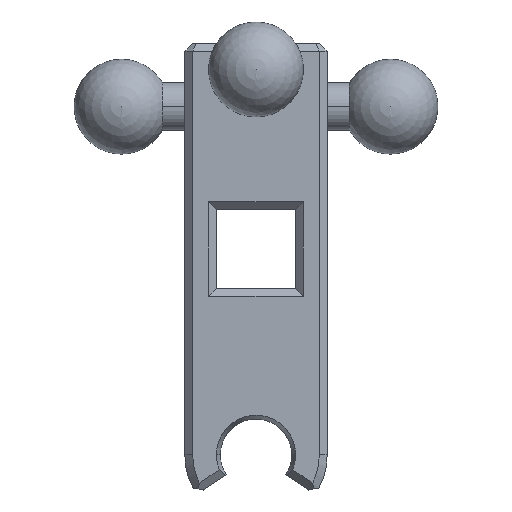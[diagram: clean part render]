
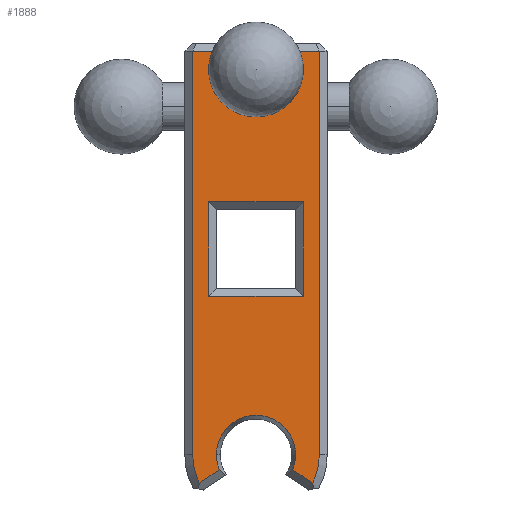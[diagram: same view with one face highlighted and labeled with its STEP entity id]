
A CAD part, top view. The second image highlights one B-rep face of the part: STEP entity #1888.
In plain terms, the highlighted planar face has unit normal (0, 0, 1).
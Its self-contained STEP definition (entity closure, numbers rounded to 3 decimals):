
#4 = CARTESIAN_POINT ( 'NONE',  ( -3.578, -14.789, 2.5 ) ) ;
#10 = CARTESIAN_POINT ( 'NONE',  ( 0., -13., 2.5 ) ) ;
#40 = ORIENTED_EDGE ( 'NONE', *, *, #556, .T. ) ;
#59 = VECTOR ( 'NONE', #1641, 1000. ) ;
#71 = DIRECTION ( 'NONE',  ( 0., 1., 0. ) ) ;
#79 = ORIENTED_EDGE ( 'NONE', *, *, #1422, .T. ) ;
#88 = CIRCLE ( 'NONE', #121, 2.5 ) ;
#93 = PLANE ( 'NONE',  #614 ) ;
#101 = FACE_BOUND ( 'NONE', #1044, .T. ) ;
#105 = ORIENTED_EDGE ( 'NONE', *, *, #1613, .T. ) ;
#108 = VERTEX_POINT ( 'NONE', #1368 ) ;
#121 = AXIS2_PLACEMENT_3D ( 'NONE', #1838, #1194, #1677 ) ;
#127 = CIRCLE ( 'NONE', #1110, 4. ) ;
#135 = VERTEX_POINT ( 'NONE', #1249 ) ;
#210 = CARTESIAN_POINT ( 'NONE',  ( 3., 3., 2.5 ) ) ;
#213 = EDGE_CURVE ( 'NONE', #729, #889, #2160, .T. ) ;
#227 = ORIENTED_EDGE ( 'NONE', *, *, #398, .T. ) ;
#244 = ORIENTED_EDGE ( 'NONE', *, *, #828, .T. ) ;
#249 = CARTESIAN_POINT ( 'NONE',  ( 0., -13., 2.5 ) ) ;
#258 = DIRECTION ( 'NONE',  ( 0.831, 0.556, 0. ) ) ;
#264 = DIRECTION ( 'NONE',  ( 0., 0., 1. ) ) ;
#266 = VECTOR ( 'NONE', #71, 1000. ) ;
#273 = CARTESIAN_POINT ( 'NONE',  ( 0., 11.34, 2.5 ) ) ;
#292 = DIRECTION ( 'NONE',  ( 1., 0., 0. ) ) ;
#334 = VERTEX_POINT ( 'NONE', #1987 ) ;
#340 = AXIS2_PLACEMENT_3D ( 'NONE', #1789, #612, #1413 ) ;
#358 = CARTESIAN_POINT ( 'NONE',  ( 3., 13., 2.5 ) ) ;
#385 = LINE ( 'NONE', #1205, #726 ) ;
#396 = ORIENTED_EDGE ( 'NONE', *, *, #601, .T. ) ;
#398 = EDGE_CURVE ( 'NONE', #334, #646, #385, .T. ) ;
#470 = VERTEX_POINT ( 'NONE', #1646 ) ;
#476 = VERTEX_POINT ( 'NONE', #2153 ) ;
#531 = VERTEX_POINT ( 'NONE', #2034 ) ;
#543 = EDGE_CURVE ( 'NONE', #135, #531, #88, .T. ) ;
#544 = LINE ( 'NONE', #2043, #692 ) ;
#556 = EDGE_CURVE ( 'NONE', #1497, #108, #1506, .T. ) ;
#601 = EDGE_CURVE ( 'NONE', #470, #1741, #1563, .T. ) ;
#612 = DIRECTION ( 'NONE',  ( 0., 0., 1. ) ) ;
#614 = AXIS2_PLACEMENT_3D ( 'NONE', #1432, #1959, #926 ) ;
#626 = CARTESIAN_POINT ( 'NONE',  ( -3., 3., 2.5 ) ) ;
#632 = CARTESIAN_POINT ( 'NONE',  ( -3., 13., 2.5 ) ) ;
#646 = VERTEX_POINT ( 'NONE', #1794 ) ;
#655 = CIRCLE ( 'NONE', #695, 2.5 ) ;
#658 = VERTEX_POINT ( 'NONE', #1621 ) ;
#660 = LINE ( 'NONE', #1171, #688 ) ;
#668 = ORIENTED_EDGE ( 'NONE', *, *, #721, .T. ) ;
#688 = VECTOR ( 'NONE', #707, 1000. ) ;
#692 = VECTOR ( 'NONE', #1712, 1000. ) ;
#695 = AXIS2_PLACEMENT_3D ( 'NONE', #10, #983, #1176 ) ;
#707 = DIRECTION ( 'NONE',  ( 0.831, -0.556, 0. ) ) ;
#721 = EDGE_CURVE ( 'NONE', #108, #1526, #1647, .T. ) ;
#726 = VECTOR ( 'NONE', #1056, 1000. ) ;
#729 = VERTEX_POINT ( 'NONE', #748 ) ;
#733 = VECTOR ( 'NONE', #258, 1000. ) ;
#747 = EDGE_LOOP ( 'NONE', ( #1123, #2001, #396, #244, #2036, #1148, #780, #810, #1821, #2181, #227, #1081, #79 ) ) ;
#748 = CARTESIAN_POINT ( 'NONE',  ( -1.187, 12.5, 2.5 ) ) ;
#758 = CARTESIAN_POINT ( 'NONE',  ( -2.356, -13.973, 2.5 ) ) ;
#780 = ORIENTED_EDGE ( 'NONE', *, *, #1284, .T. ) ;
#789 = LINE ( 'NONE', #758, #733 ) ;
#810 = ORIENTED_EDGE ( 'NONE', *, *, #1816, .F. ) ;
#828 = EDGE_CURVE ( 'NONE', #1741, #658, #660, .T. ) ;
#845 = CARTESIAN_POINT ( 'NONE',  ( 1.187, 12.5, 2.5 ) ) ;
#870 = LINE ( 'NONE', #358, #1742 ) ;
#871 = VECTOR ( 'NONE', #1553, 1000. ) ;
#889 = VERTEX_POINT ( 'NONE', #1400 ) ;
#926 = DIRECTION ( 'NONE',  ( -1., 0., 0. ) ) ;
#940 = AXIS2_PLACEMENT_3D ( 'NONE', #2054, #1919, #1906 ) ;
#983 = DIRECTION ( 'NONE',  ( 0., 0., -1. ) ) ;
#1001 = AXIS2_PLACEMENT_3D ( 'NONE', #249, #1786, #292 ) ;
#1006 = LINE ( 'NONE', #1469, #59 ) ;
#1019 = CARTESIAN_POINT ( 'NONE',  ( 0., -13., 2.5 ) ) ;
#1044 = EDGE_LOOP ( 'NONE', ( #2025, #40, #668, #105 ) ) ;
#1056 = DIRECTION ( 'NONE',  ( 0., -1., 0. ) ) ;
#1081 = ORIENTED_EDGE ( 'NONE', *, *, #1667, .F. ) ;
#1110 = AXIS2_PLACEMENT_3D ( 'NONE', #1019, #2175, #1327 ) ;
#1123 = ORIENTED_EDGE ( 'NONE', *, *, #543, .T. ) ;
#1148 = ORIENTED_EDGE ( 'NONE', *, *, #1298, .T. ) ;
#1156 = DIRECTION ( 'NONE',  ( 0., -1., 0. ) ) ;
#1170 = CARTESIAN_POINT ( 'NONE',  ( 4.5, -3., 2.5 ) ) ;
#1171 = CARTESIAN_POINT ( 'NONE',  ( -0.995, -11.734, 2.5 ) ) ;
#1172 = EDGE_CURVE ( 'NONE', #1691, #1497, #870, .T. ) ;
#1176 = DIRECTION ( 'NONE',  ( 1., 0., 0. ) ) ;
#1183 = VERTEX_POINT ( 'NONE', #4 ) ;
#1194 = DIRECTION ( 'NONE',  ( 0., 0., -1. ) ) ;
#1203 = CARTESIAN_POINT ( 'NONE',  ( 4., 13., 2.5 ) ) ;
#1205 = CARTESIAN_POINT ( 'NONE',  ( -4., 13., 2.5 ) ) ;
#1217 = LINE ( 'NONE', #1203, #871 ) ;
#1227 = CARTESIAN_POINT ( 'NONE',  ( 2.314, -13.945, 2.5 ) ) ;
#1239 = EDGE_CURVE ( 'NONE', #1358, #658, #1880, .T. ) ;
#1249 = CARTESIAN_POINT ( 'NONE',  ( -2.314, -13.945, 2.5 ) ) ;
#1282 = CARTESIAN_POINT ( 'NONE',  ( 3., -3., 2.5 ) ) ;
#1284 = EDGE_CURVE ( 'NONE', #476, #1644, #544, .T. ) ;
#1298 = EDGE_CURVE ( 'NONE', #1358, #476, #1217, .T. ) ;
#1327 = DIRECTION ( 'NONE',  ( 1., 0., 0. ) ) ;
#1358 = VERTEX_POINT ( 'NONE', #1580 ) ;
#1365 = DIRECTION ( 'NONE',  ( -1., 0., 0. ) ) ;
#1368 = CARTESIAN_POINT ( 'NONE',  ( -3., -3., 2.5 ) ) ;
#1393 = DIRECTION ( 'NONE',  ( 0., 1., 0. ) ) ;
#1400 = CARTESIAN_POINT ( 'NONE',  ( 0., 9.68, 2.5 ) ) ;
#1413 = DIRECTION ( 'NONE',  ( 0., 1., 0. ) ) ;
#1422 = EDGE_CURVE ( 'NONE', #1183, #135, #789, .T. ) ;
#1432 = CARTESIAN_POINT ( 'NONE',  ( -3.326, -15.222, 2.5 ) ) ;
#1469 = CARTESIAN_POINT ( 'NONE',  ( 4.5, 3., 2.5 ) ) ;
#1497 = VERTEX_POINT ( 'NONE', #1282 ) ;
#1506 = LINE ( 'NONE', #1170, #1627 ) ;
#1526 = VERTEX_POINT ( 'NONE', #626 ) ;
#1549 = DIRECTION ( 'NONE',  ( -1., 0., 0. ) ) ;
#1553 = DIRECTION ( 'NONE',  ( 0., 1., 0. ) ) ;
#1563 = CIRCLE ( 'NONE', #1001, 2.5 ) ;
#1580 = CARTESIAN_POINT ( 'NONE',  ( 4., -13., 2.5 ) ) ;
#1613 = EDGE_CURVE ( 'NONE', #1526, #1691, #1006, .T. ) ;
#1615 = FACE_OUTER_BOUND ( 'NONE', #747, .T. ) ;
#1621 = CARTESIAN_POINT ( 'NONE',  ( 3.578, -14.789, 2.5 ) ) ;
#1627 = VECTOR ( 'NONE', #1365, 1000. ) ;
#1636 = CIRCLE ( 'NONE', #340, 1.66 ) ;
#1641 = DIRECTION ( 'NONE',  ( 1., 0., 0. ) ) ;
#1644 = VERTEX_POINT ( 'NONE', #845 ) ;
#1646 = CARTESIAN_POINT ( 'NONE',  ( 2.5, -13., 2.5 ) ) ;
#1647 = LINE ( 'NONE', #632, #266 ) ;
#1667 = EDGE_CURVE ( 'NONE', #1183, #646, #127, .T. ) ;
#1677 = DIRECTION ( 'NONE',  ( 1., 0., 0. ) ) ;
#1691 = VERTEX_POINT ( 'NONE', #210 ) ;
#1712 = DIRECTION ( 'NONE',  ( -1., 0., 0. ) ) ;
#1731 = LINE ( 'NONE', #1739, #1777 ) ;
#1739 = CARTESIAN_POINT ( 'NONE',  ( -4., 12.5, 2.5 ) ) ;
#1741 = VERTEX_POINT ( 'NONE', #1227 ) ;
#1742 = VECTOR ( 'NONE', #1156, 1000. ) ;
#1777 = VECTOR ( 'NONE', #1549, 1000. ) ;
#1786 = DIRECTION ( 'NONE',  ( 0., 0., -1. ) ) ;
#1789 = CARTESIAN_POINT ( 'NONE',  ( 0., 11.34, 2.5 ) ) ;
#1794 = CARTESIAN_POINT ( 'NONE',  ( -4., -13., 2.5 ) ) ;
#1816 = EDGE_CURVE ( 'NONE', #889, #1644, #1636, .T. ) ;
#1821 = ORIENTED_EDGE ( 'NONE', *, *, #213, .F. ) ;
#1838 = CARTESIAN_POINT ( 'NONE',  ( 0., -13., 2.5 ) ) ;
#1876 = AXIS2_PLACEMENT_3D ( 'NONE', #273, #264, #1393 ) ;
#1880 = CIRCLE ( 'NONE', #940, 4. ) ;
#1888 = ADVANCED_FACE ( 'NONE', ( #1615, #101 ), #93, .T. ) ;
#1906 = DIRECTION ( 'NONE',  ( 1., 0., 0. ) ) ;
#1919 = DIRECTION ( 'NONE',  ( 0., 0., -1. ) ) ;
#1947 = EDGE_CURVE ( 'NONE', #531, #470, #655, .T. ) ;
#1959 = DIRECTION ( 'NONE',  ( 0., 0., 1. ) ) ;
#1987 = CARTESIAN_POINT ( 'NONE',  ( -4., 12.5, 2.5 ) ) ;
#2001 = ORIENTED_EDGE ( 'NONE', *, *, #1947, .T. ) ;
#2025 = ORIENTED_EDGE ( 'NONE', *, *, #1172, .T. ) ;
#2034 = CARTESIAN_POINT ( 'NONE',  ( -2.5, -13., 2.5 ) ) ;
#2036 = ORIENTED_EDGE ( 'NONE', *, *, #1239, .F. ) ;
#2043 = CARTESIAN_POINT ( 'NONE',  ( -4., 12.5, 2.5 ) ) ;
#2054 = CARTESIAN_POINT ( 'NONE',  ( 0., -13., 2.5 ) ) ;
#2146 = EDGE_CURVE ( 'NONE', #729, #334, #1731, .T. ) ;
#2153 = CARTESIAN_POINT ( 'NONE',  ( 4., 12.5, 2.5 ) ) ;
#2160 = CIRCLE ( 'NONE', #1876, 1.66 ) ;
#2175 = DIRECTION ( 'NONE',  ( 0., 0., -1. ) ) ;
#2181 = ORIENTED_EDGE ( 'NONE', *, *, #2146, .T. ) ;
